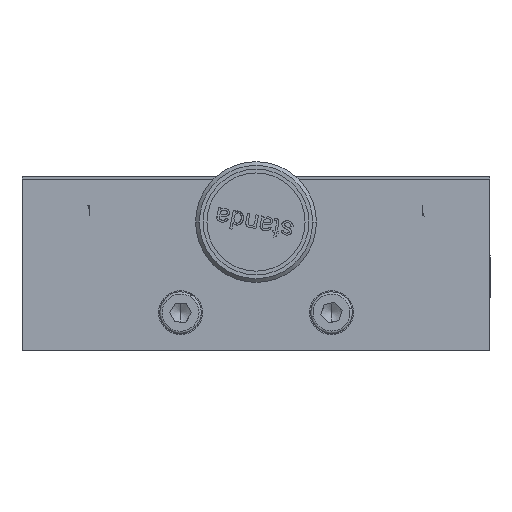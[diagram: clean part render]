
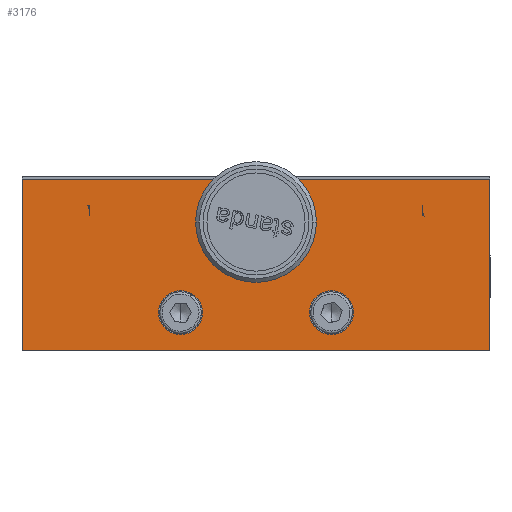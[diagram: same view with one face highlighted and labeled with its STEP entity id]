
A CAD part, front view. The second image highlights one B-rep face of the part: STEP entity #3176.
In plain terms, the highlighted planar face has unit normal (0, -1, 0).
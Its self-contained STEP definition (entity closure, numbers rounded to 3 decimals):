
#2449 = EDGE_CURVE ( 'NONE', #5846, #5849, #21569, .T. ) ;
#2454 = EDGE_CURVE ( 'NONE', #5804, #5803, #21545, .T. ) ;
#2466 = EDGE_CURVE ( 'NONE', #5785, #5788, #21637, .T. ) ;
#3118 = VERTEX_POINT ( 'NONE', #23776 ) ;
#3158 = EDGE_LOOP ( 'NONE', ( #3159, #3162, #3163, #3166 ) ) ;
#3159 = ORIENTED_EDGE ( 'NONE', *, *, #3160, .F. ) ;
#3160 = EDGE_CURVE ( 'NONE', #3173, #3161, #23914, .T. ) ;
#3161 = VERTEX_POINT ( 'NONE', #23899 ) ;
#3162 = ORIENTED_EDGE ( 'NONE', *, *, #3172, .T. ) ;
#3163 = ORIENTED_EDGE ( 'NONE', *, *, #3164, .F. ) ;
#3164 = EDGE_CURVE ( 'NONE', #3165, #3118, #23894, .T. ) ;
#3165 = VERTEX_POINT ( 'NONE', #23887 ) ;
#3166 = ORIENTED_EDGE ( 'NONE', *, *, #3167, .F. ) ;
#3167 = EDGE_CURVE ( 'NONE', #3161, #3165, #23884, .T. ) ;
#3172 = EDGE_CURVE ( 'NONE', #3173, #3118, #23981, .T. ) ;
#3173 = VERTEX_POINT ( 'NONE', #23976 ) ;
#3176 = ADVANCED_FACE ( 'NONE', ( #23966, #23965, #23963, #23961 ), #23957, .T. ) ;
#3177 = EDGE_LOOP ( 'NONE', ( #3178, #3179 ) ) ;
#3178 = ORIENTED_EDGE ( 'NONE', *, *, #2454, .T. ) ;
#3179 = ORIENTED_EDGE ( 'NONE', *, *, #5802, .T. ) ;
#3180 = EDGE_LOOP ( 'NONE', ( #3181, #3182 ) ) ;
#3181 = ORIENTED_EDGE ( 'NONE', *, *, #5848, .T. ) ;
#3182 = ORIENTED_EDGE ( 'NONE', *, *, #2449, .T. ) ;
#3183 = EDGE_LOOP ( 'NONE', ( #3236, #3237 ) ) ;
#3236 = ORIENTED_EDGE ( 'NONE', *, *, #5787, .T. ) ;
#3237 = ORIENTED_EDGE ( 'NONE', *, *, #2466, .T. ) ;
#5785 = VERTEX_POINT ( 'NONE', #23486 ) ;
#5787 = EDGE_CURVE ( 'NONE', #5788, #5785, #23483, .T. ) ;
#5788 = VERTEX_POINT ( 'NONE', #23475 ) ;
#5802 = EDGE_CURVE ( 'NONE', #5803, #5804, #23552, .T. ) ;
#5803 = VERTEX_POINT ( 'NONE', #23542 ) ;
#5804 = VERTEX_POINT ( 'NONE', #23540 ) ;
#5846 = VERTEX_POINT ( 'NONE', #23760 ) ;
#5848 = EDGE_CURVE ( 'NONE', #5849, #5846, #23755, .T. ) ;
#5849 = VERTEX_POINT ( 'NONE', #23748 ) ;
#21543 = DIRECTION ( 'NONE',  ( 0., 1., 0. ) ) ;
#21544 = AXIS2_PLACEMENT_3D ( 'NONE', #21552, #21543, #21668 ) ;
#21545 = CIRCLE ( 'NONE', #21544, 5.5 ) ;
#21552 = CARTESIAN_POINT ( 'NONE',  ( 24., -7., 17. ) ) ;
#21562 = DIRECTION ( 'NONE',  ( 1., 0., 0. ) ) ;
#21564 = DIRECTION ( 'NONE',  ( 0., 1., 0. ) ) ;
#21566 = CARTESIAN_POINT ( 'NONE',  ( 14., -7., 5. ) ) ;
#21568 = AXIS2_PLACEMENT_3D ( 'NONE', #21566, #21564, #21562 ) ;
#21569 = CIRCLE ( 'NONE', #21568, 2.9 ) ;
#21618 = DIRECTION ( 'NONE',  ( 1., 0., 0. ) ) ;
#21619 = DIRECTION ( 'NONE',  ( 0., 1., 0. ) ) ;
#21621 = CARTESIAN_POINT ( 'NONE',  ( 34., -7., 5. ) ) ;
#21622 = AXIS2_PLACEMENT_3D ( 'NONE', #21621, #21619, #21618 ) ;
#21637 = CIRCLE ( 'NONE', #21622, 2.9 ) ;
#21668 = DIRECTION ( 'NONE',  ( 0., 0., -1. ) ) ;
#23475 = CARTESIAN_POINT ( 'NONE',  ( 36.9, -7., 5. ) ) ;
#23476 = DIRECTION ( 'NONE',  ( 1., 0., 0. ) ) ;
#23479 = DIRECTION ( 'NONE',  ( 0., 1., 0. ) ) ;
#23480 = CARTESIAN_POINT ( 'NONE',  ( 34., -7., 5. ) ) ;
#23482 = AXIS2_PLACEMENT_3D ( 'NONE', #23480, #23479, #23476 ) ;
#23483 = CIRCLE ( 'NONE', #23482, 2.9 ) ;
#23486 = CARTESIAN_POINT ( 'NONE',  ( 31.1, -7., 5. ) ) ;
#23540 = CARTESIAN_POINT ( 'NONE',  ( 24., -7., 11.5 ) ) ;
#23542 = CARTESIAN_POINT ( 'NONE',  ( 24., -7., 22.5 ) ) ;
#23545 = DIRECTION ( 'NONE',  ( 0., 0., -1. ) ) ;
#23547 = DIRECTION ( 'NONE',  ( 0., 1., 0. ) ) ;
#23549 = CARTESIAN_POINT ( 'NONE',  ( 24., -7., 17. ) ) ;
#23550 = AXIS2_PLACEMENT_3D ( 'NONE', #23549, #23547, #23545 ) ;
#23552 = CIRCLE ( 'NONE', #23550, 5.5 ) ;
#23748 = CARTESIAN_POINT ( 'NONE',  ( 16.9, -7., 5. ) ) ;
#23750 = DIRECTION ( 'NONE',  ( 1., 0., 0. ) ) ;
#23752 = DIRECTION ( 'NONE',  ( 0., 1., 0. ) ) ;
#23753 = CARTESIAN_POINT ( 'NONE',  ( 14., -7., 5. ) ) ;
#23754 = AXIS2_PLACEMENT_3D ( 'NONE', #23753, #23752, #23750 ) ;
#23755 = CIRCLE ( 'NONE', #23754, 2.9 ) ;
#23760 = CARTESIAN_POINT ( 'NONE',  ( 11.1, -7., 5. ) ) ;
#23776 = CARTESIAN_POINT ( 'NONE',  ( -7., -7., 22.7 ) ) ;
#23881 = DIRECTION ( 'NONE',  ( -1., 0., 0. ) ) ;
#23882 = VECTOR ( 'NONE', #23881, 39.37 ) ;
#23883 = CARTESIAN_POINT ( 'NONE',  ( 55., -7., 0. ) ) ;
#23884 = LINE ( 'NONE', #23883, #23882 ) ;
#23887 = CARTESIAN_POINT ( 'NONE',  ( -7., -7., 0. ) ) ;
#23890 = DIRECTION ( 'NONE',  ( 0., 0., 1. ) ) ;
#23892 = VECTOR ( 'NONE', #23890, 39.37 ) ;
#23893 = CARTESIAN_POINT ( 'NONE',  ( -7., -7., 13. ) ) ;
#23894 = LINE ( 'NONE', #23893, #23892 ) ;
#23899 = CARTESIAN_POINT ( 'NONE',  ( 55., -7., 0. ) ) ;
#23900 = DIRECTION ( 'NONE',  ( 0., 0., -1. ) ) ;
#23901 = VECTOR ( 'NONE', #23900, 39.37 ) ;
#23902 = CARTESIAN_POINT ( 'NONE',  ( 55., -7., 13. ) ) ;
#23914 = LINE ( 'NONE', #23902, #23901 ) ;
#23951 = DIRECTION ( 'NONE',  ( 1., 0., 0. ) ) ;
#23953 = DIRECTION ( 'NONE',  ( 0., -1., 0. ) ) ;
#23955 = CARTESIAN_POINT ( 'NONE',  ( 24., -7., 11.35 ) ) ;
#23956 = AXIS2_PLACEMENT_3D ( 'NONE', #23955, #23953, #23951 ) ;
#23957 = PLANE ( 'NONE',  #23956 ) ;
#23961 = FACE_OUTER_BOUND ( 'NONE', #3158, .T. ) ;
#23963 = FACE_BOUND ( 'NONE', #3183, .T. ) ;
#23965 = FACE_BOUND ( 'NONE', #3180, .T. ) ;
#23966 = FACE_BOUND ( 'NONE', #3177, .T. ) ;
#23976 = CARTESIAN_POINT ( 'NONE',  ( 55., -7., 22.7 ) ) ;
#23977 = DIRECTION ( 'NONE',  ( -1., 0., 0. ) ) ;
#23978 = VECTOR ( 'NONE', #23977, 39.37 ) ;
#23980 = CARTESIAN_POINT ( 'NONE',  ( 24., -7., 22.7 ) ) ;
#23981 = LINE ( 'NONE', #23980, #23978 ) ;
